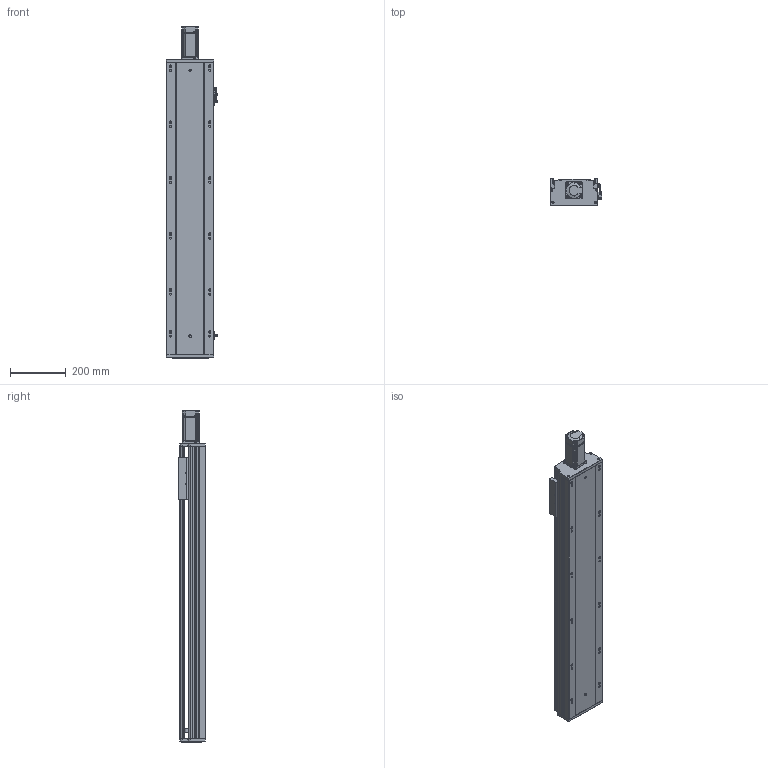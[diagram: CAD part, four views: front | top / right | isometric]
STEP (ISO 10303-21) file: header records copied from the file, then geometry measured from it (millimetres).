
FILE_DESCRIPTION (( 'STEP AP203' ), '1' );
FILE_NAME ('RY170Q-L2020-400-MK.SLDASM_0800.step', '2021-05-31T02:02:50', ( '盈信电脑' ), ( '东莞市道滘镇水果街19号' ), 'SwSTEP 2.0', 'SolidWorks 2016', '' );
FILE_SCHEMA (( 'CONFIG_CONTROL_DESIGN' ));
Length unit declared in the file: millimetre
Products named in the file (12): 15; 侂狟400W侜督萇儂; 滅袉蝶18-10; RY170Q-400倰第菁釱-MK_0800; 覜茼ん672; RY170ヶ醱裔啣; RY170綴裔啣; RY170Q-L2020-400-MK.SLDASM_0800; RY170Q-400倰第裔啣-MK_0800; RY170外置感应片(200共用）; 滅袉蝶18-15; RY170Q臏賑輸20佪裝蹟譫(FK15)
Assembly tree (14 placements, depth 3):
  RY170Q-L2020-400-MK.SLDASM_0800
    RY170Q-400倰第菁釱-MK_0800
    RY170Q-400倰第裔啣-MK_0800
    RY170Q臏賑輸20佪裝蹟譫(FK15)
    侂狟400W侜督萇儂
      15
    RY170綴裔啣
    覜茼ん672  x3
    RY170外置感应片(200共用）
    RY170ヶ醱裔啣
    滅袉蝶18-15  x2
    滅袉蝶18-10
Bounding box: 183.7 x 97 x 1186.5 mm (x, y, z)
Volume: 5377928.7 mm3; surface area: 1748258.8 mm2
Topology: 13 solids, 13 shells, 2176 faces, 6191 edges, 3995 vertices
Faces by surface type: plane 1185, cylinder 785, cone 177, bspline 29
Entity records: 68254 total; most frequent: CARTESIAN_POINT 14939, ORIENTED_EDGE 11130, DIRECTION 10572, EDGE_CURVE 5565, VERTEX_POINT 3663, VECTOR 3608, LINE 3608, AXIS2_PLACEMENT_3D 3482
